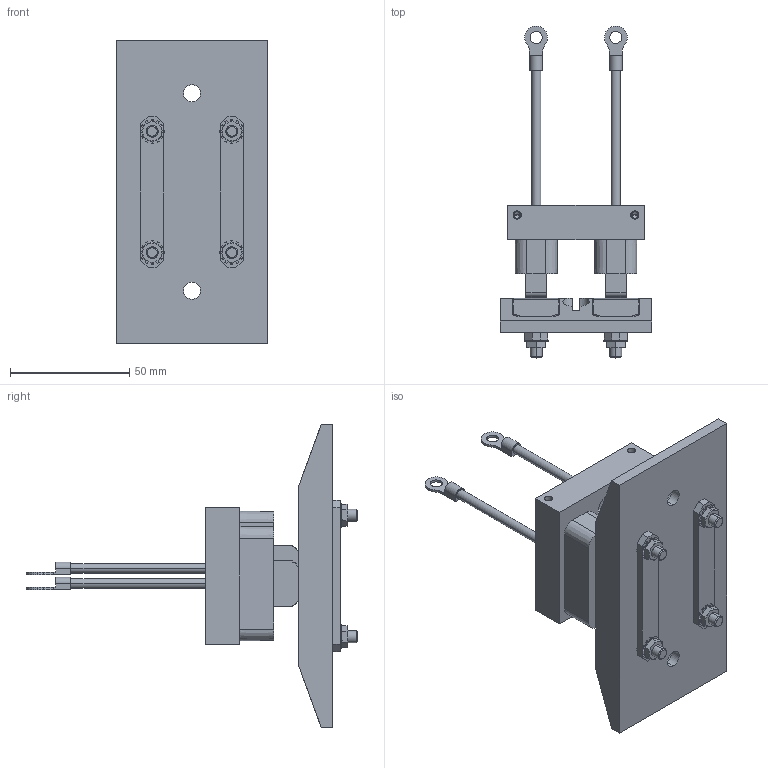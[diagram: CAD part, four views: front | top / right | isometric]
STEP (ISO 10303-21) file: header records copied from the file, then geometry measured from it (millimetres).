
FILE_DESCRIPTION (( 'STEP AP214' ), '1' );
FILE_NAME ('XA-BCL020A2WO.STEP', '2016-09-16T14:00:04', ( 'admin' ), ( 'Microsoft' ), 'SwSTEP 2.0', 'SolidWorks 2014', '' );
FILE_SCHEMA (( 'AUTOMOTIVE_DESIGN' ));
Length unit declared in the file: inch
Products named in the file (16): XA-BCC020A2WO; XA-564824_default; XA-562727; XA-562687_XA-562687; XA-564381_DEFAULT; XA-564413; XA-562889; XA-BCB020A2WO; XA-568320_DEFAULT; XA-564988; XA-564426_B18.21.2M-External Tooth Lock Washers_AM5; XA-564425; XA-564422_B18.3.5M - 5 x 0.8 x 25 Socket FCHS  -- 25C; XA-562899; XA-562895; XA-BCL020A2WO
Assembly tree (40 placements, depth 3):
  XA-BCL020A2WO
    XA-BCB020A2WO
      XA-562895
      XA-562899  x2
      XA-564422_B18.3.5M - 5 x 0.8 x 25 Socket FCHS  -- 25C  x4
      XA-564425  x2
      XA-564426_B18.21.2M-External Tooth Lock Washers_AM5  x4
      XA-564988  x4
      XA-568320_DEFAULT  x4
    XA-BCC020A2WO
      XA-562889
      XA-564413  x4
      XA-564381_DEFAULT  x4
      XA-562687_XA-562687  x2
      XA-562727  x2
      XA-564824_default  x4
Bounding box: 63.5 x 138.91 x 127 mm (x, y, z)
Volume: 166212.2 mm3; surface area: 76459.3 mm2
Topology: 38 solids, 38 shells, 1064 faces, 2620 edges, 1640 vertices
Faces by surface type: plane 498, cylinder 326, cone 184, bspline 40, torus 16
Entity records: 21366 total; most frequent: CARTESIAN_POINT 9301, DIRECTION 2405, ORIENTED_EDGE 2202, EDGE_CURVE 1101, AXIS2_PLACEMENT_3D 886, VERTEX_POINT 706, LINE 633, VECTOR 633
